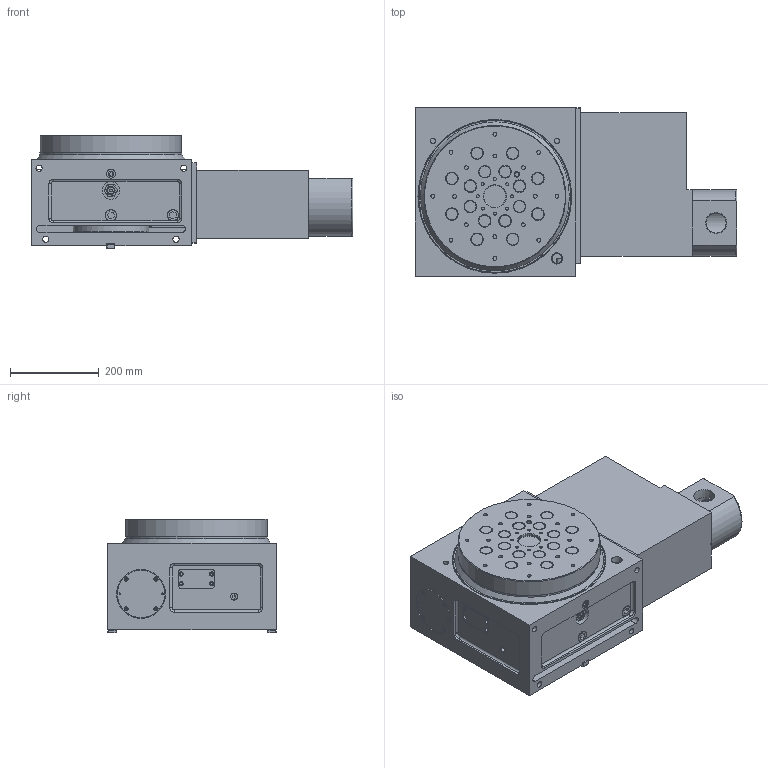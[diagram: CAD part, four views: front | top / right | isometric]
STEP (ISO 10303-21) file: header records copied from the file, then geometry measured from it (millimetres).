
FILE_DESCRIPTION (( 'STEP AP203' ), '1' );
FILE_NAME ('15121243.STEP', '2021-08-30T08:32:43', ( '' ), ( '' ), 'SwSTEP 2.0', 'SolidWorks 2021', '' );
FILE_SCHEMA (( 'CONFIG_CONTROL_DESIGN' ));
Length unit declared in the file: millimetre
Products named in the file (1): 15121243
Bounding box: 726 x 380 x 257 mm (x, y, z)
Surface area: 1147998.2 mm2 (no closed solid volume)
Topology: 0 solids, 46 shells, 458 faces, 1282 edges, 892 vertices
Faces by surface type: plane 234, cylinder 168, cone 43, torus 13
Full cylindrical faces by diameter (mm): 4.2 x10, 4.3 x4, 6 x6, 6.5 x2, 6.8 x12, 7 x11, 8.6 x16, 9.5 x18, 10 x1, 11 x7, 14 x8, 15.5 x1, 18.5 x1, 20 x1, 26 x16, 40 x1, 45.2 x1, 50 x1, 50.5 x1, 65 x1, 109 x1, 110 x1, 120 x1, 170 x1, 200 x1, 224 x1, 320 x2
Entity records: 14143 total; most frequent: CARTESIAN_POINT 2615, DIRECTION 2495, ORIENTED_EDGE 1736, EDGE_CURVE 1091, AXIS2_PLACEMENT_3D 960, VERTEX_POINT 870, EDGE_LOOP 834, FACE_OUTER_BOUND 585
